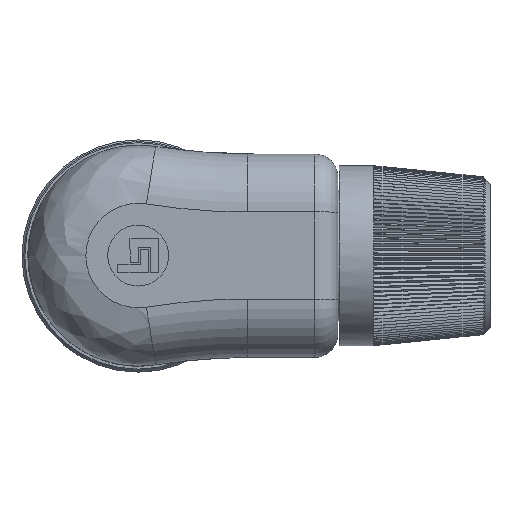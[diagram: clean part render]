
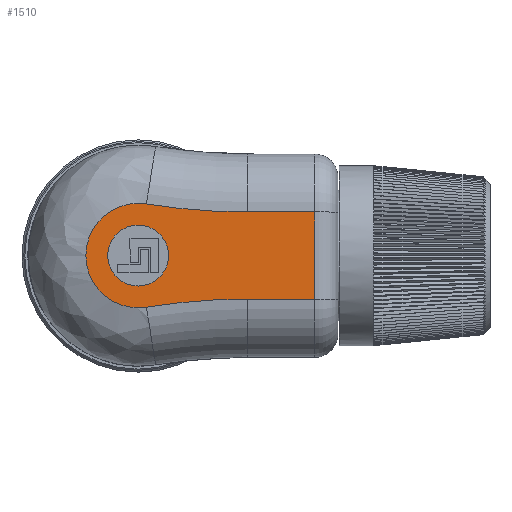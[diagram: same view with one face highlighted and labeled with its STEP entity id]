
A CAD part, top view. The second image highlights one B-rep face of the part: STEP entity #1510.
In plain terms, the highlighted planar face has unit normal (0, 0, 1).
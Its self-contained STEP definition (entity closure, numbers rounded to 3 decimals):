
#253=FACE_BOUND('',#3053,.T.);
#254=FACE_BOUND('',#3054,.T.);
#1045=PLANE('',#12297);
#1510=ADVANCED_FACE('',(#253,#254),#1045,.F.);
#3053=EDGE_LOOP('',(#5366,#5367,#5368,#5369,#5370,#5371));
#3054=EDGE_LOOP('',(#5372));
#3885=LINE('',#16818,#4571);
#3887=LINE('',#16830,#4573);
#3911=LINE('',#16948,#4597);
#4571=VECTOR('',#13545,1.);
#4573=VECTOR('',#13555,1.);
#4597=VECTOR('',#13615,1.);
#5366=ORIENTED_EDGE('',*,*,#10005,.T.);
#5367=ORIENTED_EDGE('',*,*,#10047,.T.);
#5368=ORIENTED_EDGE('',*,*,#10010,.T.);
#5369=ORIENTED_EDGE('',*,*,#10048,.T.);
#5370=ORIENTED_EDGE('',*,*,#9982,.T.);
#5371=ORIENTED_EDGE('',*,*,#10014,.T.);
#5372=ORIENTED_EDGE('',*,*,#10049,.F.);
#8858=VERTEX_POINT('',#16707);
#8859=VERTEX_POINT('',#16709);
#8881=VERTEX_POINT('',#16819);
#8882=VERTEX_POINT('',#16820);
#8886=VERTEX_POINT('',#16829);
#8887=VERTEX_POINT('',#16831);
#8914=VERTEX_POINT('',#16951);
#9982=EDGE_CURVE('',#8859,#8858,#11759,.T.);
#10005=EDGE_CURVE('',#8881,#8882,#3885,.T.);
#10010=EDGE_CURVE('',#8887,#8886,#3887,.T.);
#10014=EDGE_CURVE('',#8858,#8881,#11775,.T.);
#10047=EDGE_CURVE('',#8882,#8887,#3911,.T.);
#10048=EDGE_CURVE('',#8886,#8859,#11782,.T.);
#10049=EDGE_CURVE('',#8914,#8914,#11783,.T.);
#11759=CIRCLE('',#12261,4.5);
#11775=CIRCLE('',#12280,55.);
#11782=CIRCLE('',#12295,55.);
#11783=CIRCLE('',#12296,2.624);
#12261=AXIS2_PLACEMENT_3D('',#16708,#13513,#13514);
#12280=AXIS2_PLACEMENT_3D('',#16839,#13563,#13564);
#12295=AXIS2_PLACEMENT_3D('',#16949,#13616,#13617);
#12296=AXIS2_PLACEMENT_3D('',#16950,#13618,#13619);
#12297=AXIS2_PLACEMENT_3D('',#16952,#13620,#13621);
#13513=DIRECTION('',(0.,0.,1.));
#13514=DIRECTION('',(0.,1.,0.));
#13545=DIRECTION('',(1.,0.,0.));
#13555=DIRECTION('',(-1.,0.,0.));
#13563=DIRECTION('',(0.,0.,-1.));
#13564=DIRECTION('',(0.,1.,0.));
#13615=DIRECTION('',(0.,1.,0.));
#13616=DIRECTION('',(0.,0.,-1.));
#13617=DIRECTION('',(0.,1.,0.));
#13618=DIRECTION('',(0.,0.,1.));
#13619=DIRECTION('',(0.,1.,0.));
#13620=DIRECTION('',(0.,0.,-1.));
#13621=DIRECTION('',(0.,1.,0.));
#16707=CARTESIAN_POINT('',(0.712,-4.443,8.7));
#16708=CARTESIAN_POINT('',(0.,0.,8.7));
#16709=CARTESIAN_POINT('',(0.712,4.443,8.7));
#16818=CARTESIAN_POINT('',(9.417,-3.75,8.7));
#16819=CARTESIAN_POINT('',(9.417,-3.75,8.7));
#16820=CARTESIAN_POINT('',(15.2,-3.75,8.7));
#16829=CARTESIAN_POINT('',(9.417,3.75,8.7));
#16830=CARTESIAN_POINT('',(9.417,3.75,8.7));
#16831=CARTESIAN_POINT('',(15.2,3.75,8.7));
#16839=CARTESIAN_POINT('',(9.417,-58.75,8.7));
#16948=CARTESIAN_POINT('',(15.2,58.75,8.7));
#16949=CARTESIAN_POINT('',(9.417,58.75,8.7));
#16950=CARTESIAN_POINT('',(0.,0.,8.7));
#16951=CARTESIAN_POINT('',(0.,2.624,8.7));
#16952=CARTESIAN_POINT('',(9.417,58.75,8.7));
